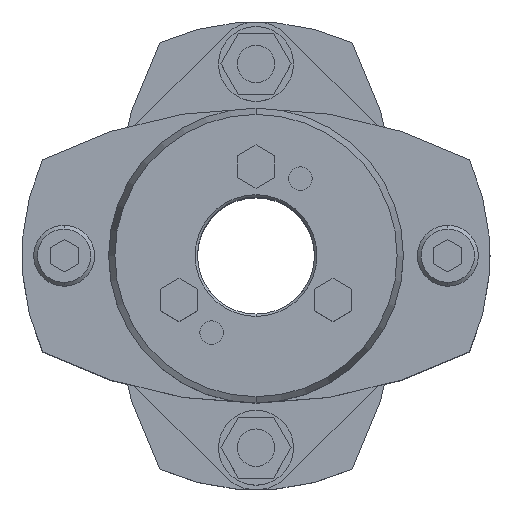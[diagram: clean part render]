
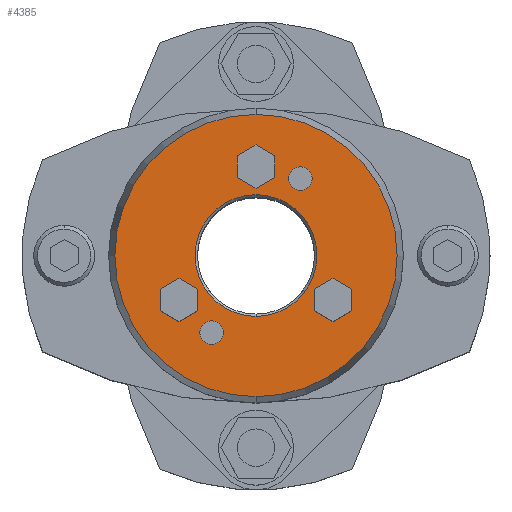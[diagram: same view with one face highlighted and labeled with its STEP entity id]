
A CAD part, top view. The second image highlights one B-rep face of the part: STEP entity #4385.
In plain terms, the highlighted planar face has unit normal (0, 0, 1).
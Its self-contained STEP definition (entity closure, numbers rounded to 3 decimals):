
#2291=CARTESIAN_POINT('',(0.,13.,55.5));
#2292=VERTEX_POINT('',#2291);
#2308=CARTESIAN_POINT('',(0.,-13.,55.5));
#2309=VERTEX_POINT('',#2308);
#2316=CARTESIAN_POINT('',(0.,0.,55.5));
#2317=DIRECTION('',(0.0,0.0,1.0));
#2318=DIRECTION('',(0.0,1.0,0.0));
#2319=AXIS2_PLACEMENT_3D('',#2316,#2317,#2318);
#2320=CIRCLE('',#2319,13.0);
#2321=EDGE_CURVE('',#2309,#2292,#2320,.T.);
#2479=CARTESIAN_POINT('',(0.,-30.16,55.5));
#2480=VERTEX_POINT('',#2479);
#2487=CARTESIAN_POINT('',(0.,30.16,55.5));
#2488=VERTEX_POINT('',#2487);
#2489=CARTESIAN_POINT('',(0.,0.,55.5));
#2490=DIRECTION('',(0.0,0.0,-1.0));
#2491=DIRECTION('',(0.0,-1.0,0.0));
#2492=AXIS2_PLACEMENT_3D('',#2489,#2490,#2491);
#2493=CIRCLE('',#2492,30.16);
#2494=EDGE_CURVE('',#2480,#2488,#2493,.T.);
#2589=CARTESIAN_POINT('',(9.5,18.954,55.5));
#2590=VERTEX_POINT('',#2589);
#2606=CARTESIAN_POINT('',(9.5,13.954,55.5));
#2607=VERTEX_POINT('',#2606);
#2614=CARTESIAN_POINT('',(9.5,16.454,55.5));
#2615=DIRECTION('',(0.0,0.0,-1.0));
#2616=DIRECTION('',(0.0,1.0,0.0));
#2617=AXIS2_PLACEMENT_3D('',#2614,#2615,#2616);
#2618=CIRCLE('',#2617,2.5);
#2619=EDGE_CURVE('',#2590,#2607,#2618,.T.);
#2631=CARTESIAN_POINT('',(-9.5,-13.954,55.5));
#2632=VERTEX_POINT('',#2631);
#2648=CARTESIAN_POINT('',(-9.5,-18.954,55.5));
#2649=VERTEX_POINT('',#2648);
#2656=CARTESIAN_POINT('',(-9.5,-16.454,55.5));
#2657=DIRECTION('',(0.0,0.0,-1.0));
#2658=DIRECTION('',(0.0,1.0,0.0));
#2659=AXIS2_PLACEMENT_3D('',#2656,#2657,#2658);
#2660=CIRCLE('',#2659,2.5);
#2661=EDGE_CURVE('',#2632,#2649,#2660,.T.);
#3412=CARTESIAN_POINT('',(-9.5,-16.454,55.5));
#3413=DIRECTION('',(0.0,0.0,-1.0));
#3414=DIRECTION('',(0.0,1.0,0.0));
#3415=AXIS2_PLACEMENT_3D('',#3412,#3413,#3414);
#3416=CIRCLE('',#3415,2.5);
#3417=EDGE_CURVE('',#2649,#2632,#3416,.T.);
#3446=CARTESIAN_POINT('',(9.5,16.454,55.5));
#3447=DIRECTION('',(0.0,0.0,-1.0));
#3448=DIRECTION('',(0.0,1.0,0.0));
#3449=AXIS2_PLACEMENT_3D('',#3446,#3447,#3448);
#3450=CIRCLE('',#3449,2.5);
#3451=EDGE_CURVE('',#2607,#2590,#3450,.T.);
#3489=CARTESIAN_POINT('',(0.,23.619,55.5));
#3490=VERTEX_POINT('',#3489);
#3497=CARTESIAN_POINT('',(-4.,21.309,55.5));
#3498=VERTEX_POINT('',#3497);
#3499=CARTESIAN_POINT('',(-4.,21.309,55.5));
#3500=DIRECTION('',(0.866,0.5,0.0));
#3501=VECTOR('',#3500,4.619);
#3502=LINE('',#3499,#3501);
#3503=EDGE_CURVE('',#3498,#3490,#3502,.T.);
#3527=CARTESIAN_POINT('',(4.,21.309,55.5));
#3528=VERTEX_POINT('',#3527);
#3535=CARTESIAN_POINT('',(0.,23.619,55.5));
#3536=DIRECTION('',(0.866,-0.5,0.0));
#3537=VECTOR('',#3536,4.619);
#3538=LINE('',#3535,#3537);
#3539=EDGE_CURVE('',#3490,#3528,#3538,.T.);
#3558=CARTESIAN_POINT('',(4.,16.691,55.5));
#3559=VERTEX_POINT('',#3558);
#3566=CARTESIAN_POINT('',(4.,21.309,55.5));
#3567=DIRECTION('',(0.0,-1.0,0.0));
#3568=VECTOR('',#3567,4.619);
#3569=LINE('',#3566,#3568);
#3570=EDGE_CURVE('',#3528,#3559,#3569,.T.);
#3589=CARTESIAN_POINT('',(0.,14.381,55.5));
#3590=VERTEX_POINT('',#3589);
#3597=CARTESIAN_POINT('',(4.,16.691,55.5));
#3598=DIRECTION('',(-0.866,-0.5,0.0));
#3599=VECTOR('',#3598,4.619);
#3600=LINE('',#3597,#3599);
#3601=EDGE_CURVE('',#3559,#3590,#3600,.T.);
#3620=CARTESIAN_POINT('',(-4.,16.691,55.5));
#3621=VERTEX_POINT('',#3620);
#3628=CARTESIAN_POINT('',(0.,14.381,55.5));
#3629=DIRECTION('',(-0.866,0.5,0.0));
#3630=VECTOR('',#3629,4.619);
#3631=LINE('',#3628,#3630);
#3632=EDGE_CURVE('',#3590,#3621,#3631,.T.);
#3650=CARTESIAN_POINT('',(-4.,16.691,55.5));
#3651=DIRECTION('',(0.0,1.0,0.0));
#3652=VECTOR('',#3651,4.619);
#3653=LINE('',#3650,#3652);
#3654=EDGE_CURVE('',#3621,#3498,#3653,.T.);
#3689=CARTESIAN_POINT('',(16.454,-4.881,55.5));
#3690=VERTEX_POINT('',#3689);
#3697=CARTESIAN_POINT('',(12.454,-7.191,55.5));
#3698=VERTEX_POINT('',#3697);
#3699=CARTESIAN_POINT('',(12.454,-7.191,55.5));
#3700=DIRECTION('',(0.866,0.5,0.0));
#3701=VECTOR('',#3700,4.619);
#3702=LINE('',#3699,#3701);
#3703=EDGE_CURVE('',#3698,#3690,#3702,.T.);
#3727=CARTESIAN_POINT('',(20.454,-7.191,55.5));
#3728=VERTEX_POINT('',#3727);
#3735=CARTESIAN_POINT('',(16.454,-4.881,55.5));
#3736=DIRECTION('',(0.866,-0.5,0.0));
#3737=VECTOR('',#3736,4.619);
#3738=LINE('',#3735,#3737);
#3739=EDGE_CURVE('',#3690,#3728,#3738,.T.);
#3758=CARTESIAN_POINT('',(20.454,-11.809,55.5));
#3759=VERTEX_POINT('',#3758);
#3766=CARTESIAN_POINT('',(20.454,-7.191,55.5));
#3767=DIRECTION('',(0.0,-1.0,0.0));
#3768=VECTOR('',#3767,4.619);
#3769=LINE('',#3766,#3768);
#3770=EDGE_CURVE('',#3728,#3759,#3769,.T.);
#3789=CARTESIAN_POINT('',(16.454,-14.119,55.5));
#3790=VERTEX_POINT('',#3789);
#3797=CARTESIAN_POINT('',(20.454,-11.809,55.5));
#3798=DIRECTION('',(-0.866,-0.5,0.0));
#3799=VECTOR('',#3798,4.619);
#3800=LINE('',#3797,#3799);
#3801=EDGE_CURVE('',#3759,#3790,#3800,.T.);
#3820=CARTESIAN_POINT('',(12.454,-11.809,55.5));
#3821=VERTEX_POINT('',#3820);
#3828=CARTESIAN_POINT('',(16.454,-14.119,55.5));
#3829=DIRECTION('',(-0.866,0.5,0.0));
#3830=VECTOR('',#3829,4.619);
#3831=LINE('',#3828,#3830);
#3832=EDGE_CURVE('',#3790,#3821,#3831,.T.);
#3850=CARTESIAN_POINT('',(12.454,-11.809,55.5));
#3851=DIRECTION('',(0.0,1.0,0.0));
#3852=VECTOR('',#3851,4.619);
#3853=LINE('',#3850,#3852);
#3854=EDGE_CURVE('',#3821,#3698,#3853,.T.);
#3889=CARTESIAN_POINT('',(-16.454,-4.881,55.5));
#3890=VERTEX_POINT('',#3889);
#3897=CARTESIAN_POINT('',(-20.454,-7.191,55.5));
#3898=VERTEX_POINT('',#3897);
#3899=CARTESIAN_POINT('',(-20.454,-7.191,55.5));
#3900=DIRECTION('',(0.866,0.5,0.0));
#3901=VECTOR('',#3900,4.619);
#3902=LINE('',#3899,#3901);
#3903=EDGE_CURVE('',#3898,#3890,#3902,.T.);
#3927=CARTESIAN_POINT('',(-12.454,-7.191,55.5));
#3928=VERTEX_POINT('',#3927);
#3935=CARTESIAN_POINT('',(-16.454,-4.881,55.5));
#3936=DIRECTION('',(0.866,-0.5,0.0));
#3937=VECTOR('',#3936,4.619);
#3938=LINE('',#3935,#3937);
#3939=EDGE_CURVE('',#3890,#3928,#3938,.T.);
#3958=CARTESIAN_POINT('',(-12.454,-11.809,55.5));
#3959=VERTEX_POINT('',#3958);
#3966=CARTESIAN_POINT('',(-12.454,-7.191,55.5));
#3967=DIRECTION('',(0.0,-1.0,0.0));
#3968=VECTOR('',#3967,4.619);
#3969=LINE('',#3966,#3968);
#3970=EDGE_CURVE('',#3928,#3959,#3969,.T.);
#3989=CARTESIAN_POINT('',(-16.454,-14.119,55.5));
#3990=VERTEX_POINT('',#3989);
#3997=CARTESIAN_POINT('',(-12.454,-11.809,55.5));
#3998=DIRECTION('',(-0.866,-0.5,0.0));
#3999=VECTOR('',#3998,4.619);
#4000=LINE('',#3997,#3999);
#4001=EDGE_CURVE('',#3959,#3990,#4000,.T.);
#4020=CARTESIAN_POINT('',(-20.454,-11.809,55.5));
#4021=VERTEX_POINT('',#4020);
#4028=CARTESIAN_POINT('',(-16.454,-14.119,55.5));
#4029=DIRECTION('',(-0.866,0.5,0.0));
#4030=VECTOR('',#4029,4.619);
#4031=LINE('',#4028,#4030);
#4032=EDGE_CURVE('',#3990,#4021,#4031,.T.);
#4050=CARTESIAN_POINT('',(-20.454,-11.809,55.5));
#4051=DIRECTION('',(0.0,1.0,0.0));
#4052=VECTOR('',#4051,4.619);
#4053=LINE('',#4050,#4052);
#4054=EDGE_CURVE('',#4021,#3898,#4053,.T.);
#4324=CARTESIAN_POINT('',(0.,0.,55.5));
#4325=DIRECTION('',(0.0,0.0,-1.0));
#4326=DIRECTION('',(0.0,-1.0,0.0));
#4327=AXIS2_PLACEMENT_3D('',#4324,#4325,#4326);
#4328=CIRCLE('',#4327,30.16);
#4329=EDGE_CURVE('',#2488,#2480,#4328,.T.);
#4334=CARTESIAN_POINT('',(0.,2.864,55.5));
#4335=DIRECTION('',(0.0,0.0,1.0));
#4336=DIRECTION('',(0.0,1.0,0.0));
#4337=AXIS2_PLACEMENT_3D('',#4334,#4335,#4336);
#4338=PLANE('',#4337);
#4339=ORIENTED_EDGE('',*,*,#4329,.F.);
#4340=ORIENTED_EDGE('',*,*,#2494,.F.);
#4341=EDGE_LOOP('',(#4339,#4340));
#4342=FACE_OUTER_BOUND('',#4341,.T.);
#4343=ORIENTED_EDGE('',*,*,#2661,.T.);
#4344=ORIENTED_EDGE('',*,*,#3417,.T.);
#4345=EDGE_LOOP('',(#4343,#4344));
#4346=FACE_BOUND('',#4345,.T.);
#4347=ORIENTED_EDGE('',*,*,#2619,.T.);
#4348=ORIENTED_EDGE('',*,*,#3451,.T.);
#4349=EDGE_LOOP('',(#4347,#4348));
#4350=FACE_BOUND('',#4349,.T.);
#4351=ORIENTED_EDGE('',*,*,#3503,.T.);
#4352=ORIENTED_EDGE('',*,*,#3539,.T.);
#4353=ORIENTED_EDGE('',*,*,#3570,.T.);
#4354=ORIENTED_EDGE('',*,*,#3601,.T.);
#4355=ORIENTED_EDGE('',*,*,#3632,.T.);
#4356=ORIENTED_EDGE('',*,*,#3654,.T.);
#4357=EDGE_LOOP('',(#4351,#4352,#4353,#4354,#4355,#4356));
#4358=FACE_BOUND('',#4357,.T.);
#4359=ORIENTED_EDGE('',*,*,#3703,.T.);
#4360=ORIENTED_EDGE('',*,*,#3739,.T.);
#4361=ORIENTED_EDGE('',*,*,#3770,.T.);
#4362=ORIENTED_EDGE('',*,*,#3801,.T.);
#4363=ORIENTED_EDGE('',*,*,#3832,.T.);
#4364=ORIENTED_EDGE('',*,*,#3854,.T.);
#4365=EDGE_LOOP('',(#4359,#4360,#4361,#4362,#4363,#4364));
#4366=FACE_BOUND('',#4365,.T.);
#4367=ORIENTED_EDGE('',*,*,#3903,.T.);
#4368=ORIENTED_EDGE('',*,*,#3939,.T.);
#4369=ORIENTED_EDGE('',*,*,#3970,.T.);
#4370=ORIENTED_EDGE('',*,*,#4001,.T.);
#4371=ORIENTED_EDGE('',*,*,#4032,.T.);
#4372=ORIENTED_EDGE('',*,*,#4054,.T.);
#4373=EDGE_LOOP('',(#4367,#4368,#4369,#4370,#4371,#4372));
#4374=FACE_BOUND('',#4373,.T.);
#4375=ORIENTED_EDGE('',*,*,#2321,.F.);
#4376=CARTESIAN_POINT('',(0.,0.,55.5));
#4377=DIRECTION('',(0.0,0.0,1.0));
#4378=DIRECTION('',(0.0,1.0,0.0));
#4379=AXIS2_PLACEMENT_3D('',#4376,#4377,#4378);
#4380=CIRCLE('',#4379,13.0);
#4381=EDGE_CURVE('',#2292,#2309,#4380,.T.);
#4382=ORIENTED_EDGE('',*,*,#4381,.F.);
#4383=EDGE_LOOP('',(#4375,#4382));
#4384=FACE_BOUND('',#4383,.T.);
#4385=ADVANCED_FACE('',(#4342,#4346,#4350,#4358,#4366,#4374,#4384),#4338,.T.);
